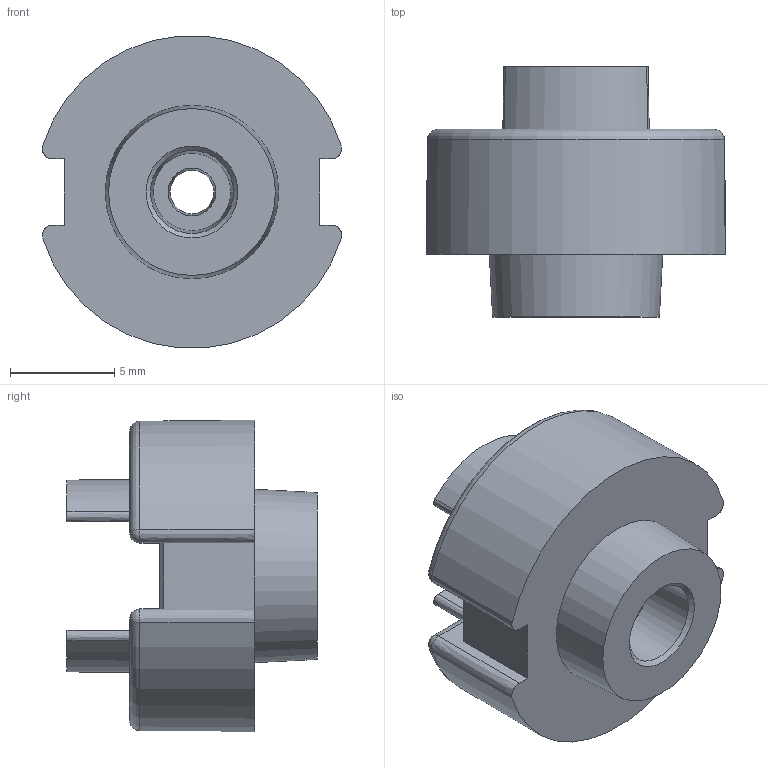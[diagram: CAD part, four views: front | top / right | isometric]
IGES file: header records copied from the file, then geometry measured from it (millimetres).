
Global section: file name: Filename.iges; native system: Open CASCADE 7.5; preprocessor: Open CASCADE IGES processor 7.5; date: 20210414.170848; units: millimetre
Bounding box: 14.36 x 12 x 14.95 mm (x, y, z)
Surface area: 1096.2 mm2 (no closed solid volume)
Topology: 0 solids, 0 shells, 131 faces, 1150 edges, 1146 vertices
Faces by surface type: plane 60, revolution 43, bspline 28
